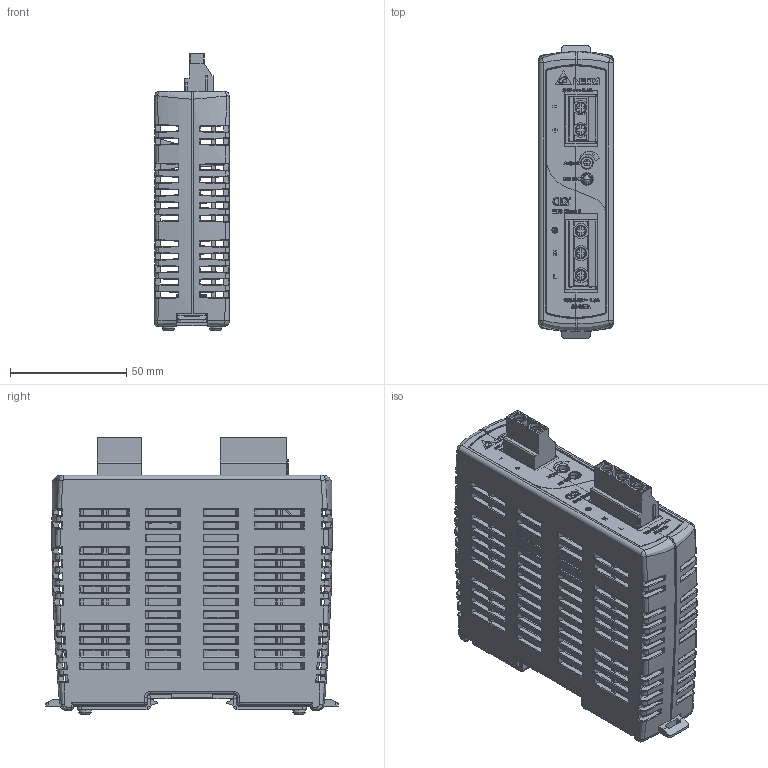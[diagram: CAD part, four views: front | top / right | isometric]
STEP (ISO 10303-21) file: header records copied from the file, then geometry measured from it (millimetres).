
FILE_DESCRIPTION((''),'2;1');
FILE_NAME('EOE11010417_ASM','2012-08-16T',('Manop.Pr'),(''),'PRO/ENGINEER BY PARAMETRIC TECHNOLOGY CORPORATION, 2010180','PRO/ENGINEER BY PARAMETRIC TECHNOLOGY CORPORATION, 2010180','');
FILE_SCHEMA(('CONFIG_CONTROL_DESIGN','SHAPE_APPEARANCE_LAYERS_GROUPS'));
Products named in the file (23): 331406470000; 331406480000; 2958053401_PWB; 2968144401_DCT-1444; 3076698246; 3076698046; ASSY_DCT-1444_ASM; 3110250000; 3122016400; EE_LED350; ASSY_LED350_ASM; EE_VR350; ASSY_PWB_EOE11010417_ASM; 3244081900; 346008350101; 347110530000; 3462014800; ASSY_LACH_ASM; 3109011900; 3109015000; 326833860101; 3268332100; EOE11010417_ASM
Assembly tree (27 placements, depth 4):
  EOE11010417_ASM
    331406470000
    331406480000
    ASSY_PWB_EOE11010417_ASM
      2958053401_PWB
      ASSY_DCT-1444_ASM
        2968144401_DCT-1444
        3076698246
        3076698046
      3110250000
      ASSY_LED350_ASM
        3122016400
        EE_LED350
      EE_VR350
    3244081900
    ASSY_LACH_ASM
      346008350101
      347110530000  x2
      3462014800  x2
    3109011900
    3109015000  x4
    326833860101
    3268332100
Bounding box: 32 x 125.8 x 119.03 mm (x, y, z)
Volume: 103017.8 mm3; surface area: 135853.8 mm2
Topology: 26 solids, 26 shells, 4513 faces, 12072 edges, 7615 vertices
Faces by surface type: plane 2513, cylinder 1059, bspline 503, extrusion 340, torus 43, cone 40, sphere 15
Entity records: 183945 total; most frequent: CARTESIAN_POINT 56173, ORIENTED_EDGE 23002, DIRECTION 17596, EDGE_CURVE 11501, PRESENTATION_STYLE_ASSIGNMENT 8356, STYLED_ITEM 8311, CURVE_STYLE 8201, VECTOR 7602
